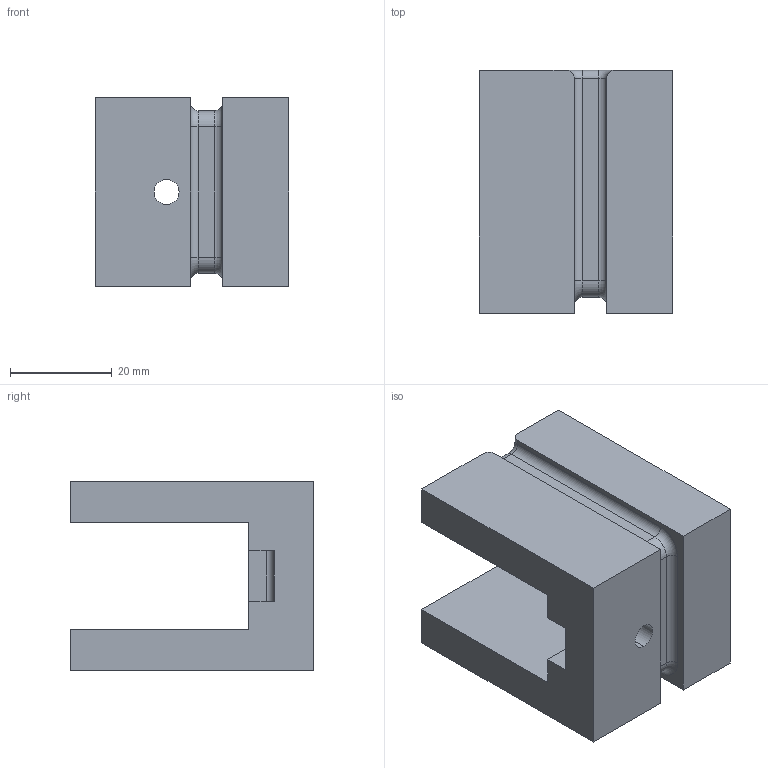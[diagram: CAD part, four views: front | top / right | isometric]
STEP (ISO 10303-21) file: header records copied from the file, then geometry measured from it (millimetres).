
FILE_DESCRIPTION (( 'STEP AP203' ), '1' );
FILE_NAME ('SERVO STAND 2.STEP', '2018-02-28T18:06:19', ( '' ), ( '' ), 'SwSTEP 2.0', 'SolidWorks 2015', '' );
FILE_SCHEMA (( 'CONFIG_CONTROL_DESIGN' ));
Length unit declared in the file: inch
Products named in the file (1): SERVO STAND 2
Bounding box: 38 x 47.7 x 37 mm (x, y, z)
Volume: 35538.2 mm3; surface area: 12265.9 mm2
Topology: 1 solids, 1 shells, 57 faces, 147 edges, 92 vertices
Faces by surface type: plane 30, cylinder 17, torus 8, cone 2
Entity records: 1804 total; most frequent: DIRECTION 307, CARTESIAN_POINT 297, ORIENTED_EDGE 294, EDGE_CURVE 147, VECTOR 103, LINE 103, AXIS2_PLACEMENT_3D 102, VERTEX_POINT 92
